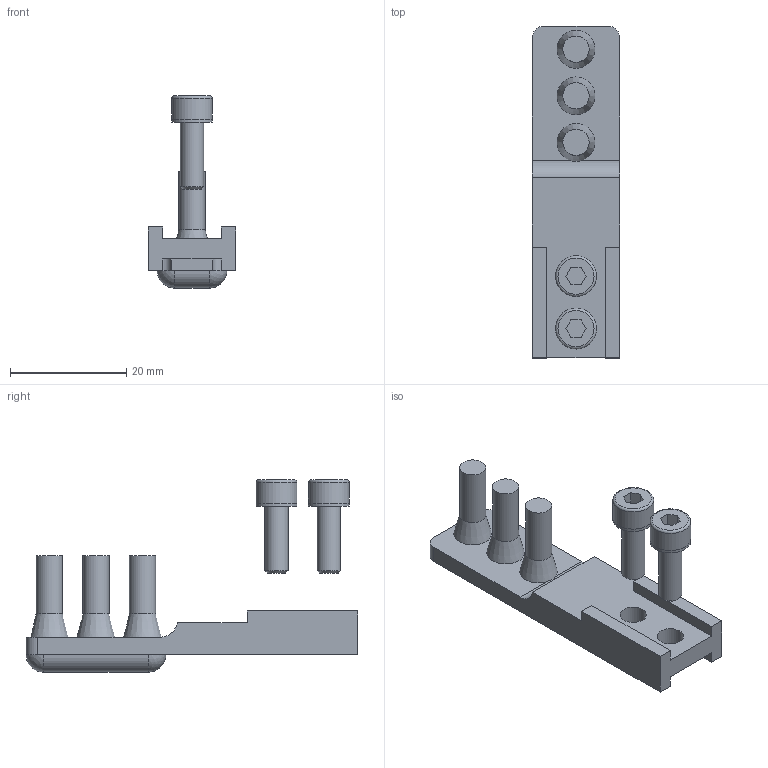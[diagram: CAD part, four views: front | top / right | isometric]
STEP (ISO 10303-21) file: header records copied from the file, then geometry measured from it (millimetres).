
FILE_DESCRIPTION((''),'2;1');
FILE_NAME('W:\Technik\Konstruktion\CAD-Daten\EOAT\GR04_\GR04.122-20-4\Aktueller Zeichnugsstand PDF--STEP\GR04.122-20-4_Index A.stp','2015-03-25T13:01:12',('tzierer'),(''),'Autodesk Inventor 2012','Autodesk Inventor 2012','');
FILE_SCHEMA(('AUTOMOTIVE_DESIGN { 1 0 10303 214 1 1 1 1 }'));
Length unit declared in the file: millimetre
Products named in the file (5): GR04.122-20-4; GR04.122-20-4-1; GR04; DIN912-M4x12; Schnorr S4
Assembly tree (6 placements, depth 2):
  GR04.122-20-4
    GR04.122-20-4-1
    GR04
    DIN912-M4x12  x2
    Schnorr S4  x2
Bounding box: 15 x 57 x 33 mm (x, y, z)
Volume: 5502.9 mm3; surface area: 4953.1 mm2
Topology: 6 solids, 6 shells, 91 faces, 201 edges, 131 vertices
Faces by surface type: plane 49, cylinder 28, torus 5, cone 5, sphere 4
Full cylindrical faces by diameter (mm): 4 x2, 4.3 x2, 4.5 x11, 7 x4
Entity records: 2071 total; most frequent: DIRECTION 364, CARTESIAN_POINT 322, ORIENTED_EDGE 272, AXIS2_PLACEMENT_3D 144, EDGE_CURVE 136, EDGE_LOOP 116, VERTEX_POINT 102, VECTOR 76
